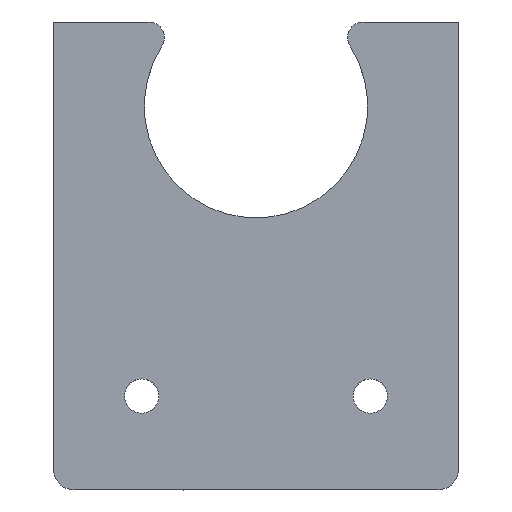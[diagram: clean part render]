
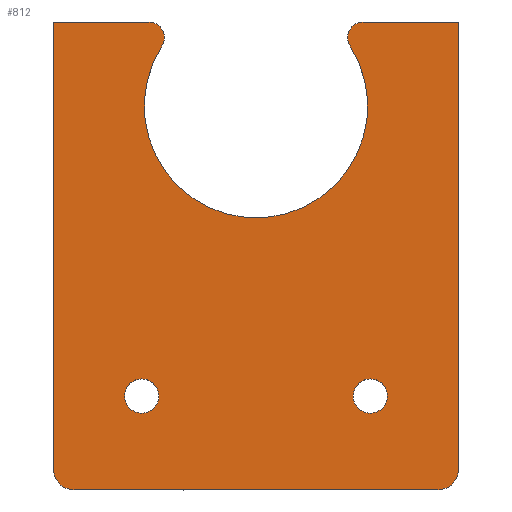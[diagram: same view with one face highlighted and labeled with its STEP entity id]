
A CAD part, top view. The second image highlights one B-rep face of the part: STEP entity #812.
In plain terms, the highlighted planar face has unit normal (0, 0, 1).
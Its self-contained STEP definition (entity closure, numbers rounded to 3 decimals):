
#48=FACE_BOUND('',#135,.T.);
#49=FACE_BOUND('',#136,.T.);
#58=PLANE('',#894);
#85=FACE_OUTER_BOUND('',#134,.T.);
#134=EDGE_LOOP('',(#619,#620,#621,#622,#623,#624,#625,#626,#627,#628));
#135=EDGE_LOOP('',(#629));
#136=EDGE_LOOP('',(#630));
#188=LINE('',#1263,#250);
#196=LINE('',#1284,#258);
#198=LINE('',#1291,#260);
#209=LINE('',#1320,#271);
#210=LINE('',#1325,#272);
#250=VECTOR('',#1002,10.);
#258=VECTOR('',#1020,10.);
#260=VECTOR('',#1028,10.);
#271=VECTOR('',#1061,10.);
#272=VECTOR('',#1066,10.);
#297=CIRCLE('',#864,2.);
#311=CIRCLE('',#882,2.);
#315=CIRCLE('',#893,1.5);
#316=CIRCLE('',#895,10.75);
#317=CIRCLE('',#896,1.5);
#318=CIRCLE('',#897,1.65);
#319=CIRCLE('',#898,1.65);
#342=VERTEX_POINT('',#1211);
#343=VERTEX_POINT('',#1212);
#366=VERTEX_POINT('',#1262);
#374=VERTEX_POINT('',#1282);
#375=VERTEX_POINT('',#1286);
#376=VERTEX_POINT('',#1290);
#382=VERTEX_POINT('',#1314);
#383=VERTEX_POINT('',#1316);
#384=VERTEX_POINT('',#1321);
#385=VERTEX_POINT('',#1323);
#386=VERTEX_POINT('',#1326);
#387=VERTEX_POINT('',#1328);
#420=EDGE_CURVE('',#342,#343,#297,.T.);
#445=EDGE_CURVE('',#366,#343,#188,.T.);
#457=EDGE_CURVE('',#342,#374,#196,.F.);
#458=EDGE_CURVE('',#366,#375,#311,.T.);
#460=EDGE_CURVE('',#376,#375,#198,.F.);
#473=EDGE_CURVE('',#382,#383,#315,.T.);
#475=EDGE_CURVE('',#374,#383,#209,.T.);
#476=EDGE_CURVE('',#382,#384,#316,.T.);
#477=EDGE_CURVE('',#385,#384,#317,.T.);
#478=EDGE_CURVE('',#385,#376,#210,.T.);
#479=EDGE_CURVE('',#386,#386,#318,.T.);
#480=EDGE_CURVE('',#387,#387,#319,.T.);
#619=ORIENTED_EDGE('',*,*,#420,.F.);
#620=ORIENTED_EDGE('',*,*,#457,.T.);
#621=ORIENTED_EDGE('',*,*,#475,.T.);
#622=ORIENTED_EDGE('',*,*,#473,.F.);
#623=ORIENTED_EDGE('',*,*,#476,.T.);
#624=ORIENTED_EDGE('',*,*,#477,.F.);
#625=ORIENTED_EDGE('',*,*,#478,.T.);
#626=ORIENTED_EDGE('',*,*,#460,.T.);
#627=ORIENTED_EDGE('',*,*,#458,.F.);
#628=ORIENTED_EDGE('',*,*,#445,.T.);
#629=ORIENTED_EDGE('',*,*,#479,.T.);
#630=ORIENTED_EDGE('',*,*,#480,.T.);
#812=ADVANCED_FACE('',(#85,#48,#49),#58,.T.);
#864=AXIS2_PLACEMENT_3D('',#1213,#963,#964);
#882=AXIS2_PLACEMENT_3D('',#1287,#1023,#1024);
#893=AXIS2_PLACEMENT_3D('',#1317,#1056,#1057);
#894=AXIS2_PLACEMENT_3D('',#1319,#1059,#1060);
#895=AXIS2_PLACEMENT_3D('',#1322,#1062,#1063);
#896=AXIS2_PLACEMENT_3D('',#1324,#1064,#1065);
#897=AXIS2_PLACEMENT_3D('',#1327,#1067,#1068);
#898=AXIS2_PLACEMENT_3D('',#1329,#1069,#1070);
#963=DIRECTION('center_axis',(0.,0.,
-1.));
#964=DIRECTION('ref_axis',(0.707,-0.707,0.));
#1002=DIRECTION('',(1.,0.,0.));
#1020=DIRECTION('',(0.,-1.,0.));
#1023=DIRECTION('center_axis',(0.,0.,
-1.));
#1024=DIRECTION('ref_axis',(-0.707,-0.707,0.));
#1028=DIRECTION('',(0.,1.,0.));
#1056=DIRECTION('center_axis',(0.,0.,
-1.));
#1057=DIRECTION('ref_axis',(-0.877,0.48,0.));
#1059=DIRECTION('center_axis',(0.,0.,
1.));
#1060=DIRECTION('ref_axis',(-1.,0.,0.));
#1061=DIRECTION('',(-1.,0.,0.));
#1062=DIRECTION('center_axis',(0.,0.,
-1.));
#1063=DIRECTION('ref_axis',(1.,0.,0.));
#1064=DIRECTION('center_axis',(0.,0.,
-1.));
#1065=DIRECTION('ref_axis',(0.877,0.48,0.));
#1066=DIRECTION('',(-1.,0.,0.));
#1067=DIRECTION('center_axis',(0.,0.,
-1.));
#1068=DIRECTION('ref_axis',(-1.,0.,0.));
#1069=DIRECTION('center_axis',(0.,0.,
-1.));
#1070=DIRECTION('ref_axis',(-1.,0.,0.));
#1211=CARTESIAN_POINT('',(-0.5,-54.227,-1.65));
#1212=CARTESIAN_POINT('',(-2.5,-56.227,-1.65));
#1213=CARTESIAN_POINT('Origin',(-2.5,-54.227,-1.65));
#1262=CARTESIAN_POINT('',(-37.5,-56.227,-1.65));
#1263=CARTESIAN_POINT('',(-33.5,-56.227,-1.65));
#1282=CARTESIAN_POINT('',(-0.5,-11.2,-1.65));
#1284=CARTESIAN_POINT('',(-0.5,-22.457,-1.65));
#1286=CARTESIAN_POINT('',(-39.5,-54.227,-1.65));
#1287=CARTESIAN_POINT('Origin',(-37.5,-54.227,-1.65));
#1290=CARTESIAN_POINT('',(-39.5,-11.2,-1.65));
#1291=CARTESIAN_POINT('',(-39.5,-43.971,-1.65));
#1314=CARTESIAN_POINT('',(-10.944,-13.508,-1.65));
#1316=CARTESIAN_POINT('',(-9.68,-11.2,-1.65));
#1317=CARTESIAN_POINT('Origin',(-9.68,-12.7,-1.65));
#1319=CARTESIAN_POINT('Origin',(-20.,-33.714,-1.65));
#1320=CARTESIAN_POINT('',(-9.712,-11.2,-1.65));
#1321=CARTESIAN_POINT('',(-29.056,-13.508,-1.65));
#1322=CARTESIAN_POINT('Origin',(-20.,-19.3,-1.65));
#1323=CARTESIAN_POINT('',(-30.32,-11.2,-1.65));
#1324=CARTESIAN_POINT('Origin',(-30.32,-12.7,-1.65));
#1325=CARTESIAN_POINT('',(-9.712,-11.2,-1.65));
#1326=CARTESIAN_POINT('',(-29.35,-47.2,-1.65));
#1327=CARTESIAN_POINT('Origin',(-31.,-47.2,-1.65));
#1328=CARTESIAN_POINT('',(-7.35,-47.2,-1.65));
#1329=CARTESIAN_POINT('Origin',(-9.,-47.2,-1.65));
